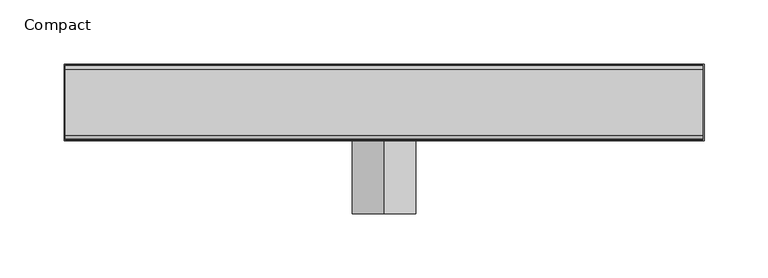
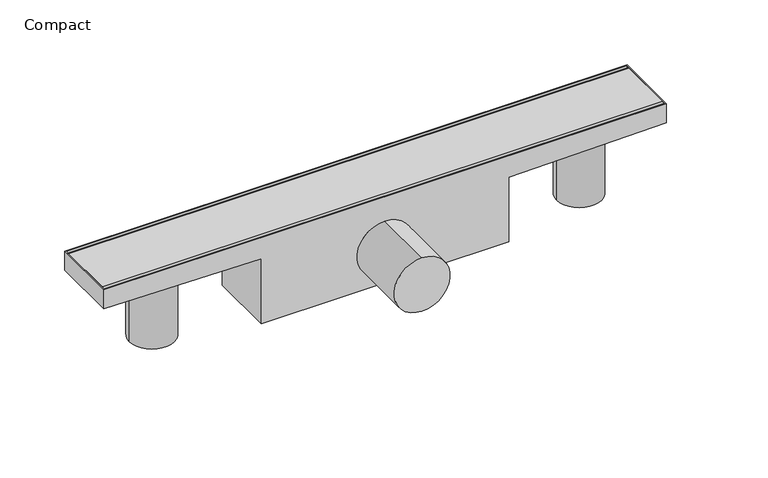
"""IFC4 building model written with IfcOpenShell, lengths in millimetres: sanitary terminal geometry, NLRS_PF_52_UN_Compact_Easydrain : Compact."""

from ifc_helpers import new_model, si_unit, point, frame, frame_2d, origin, place, context, project, spatial, polyline, circle_curve, trimmed, segment, composite_curve, outline, extrude, source, transform, mapped, element, save
from ifc_brep_helpers import plane_surface, cylinder_surface, advanced_brep


def compact_45fd4abb(model_context):
    return source(origin(), model_context, "Body", "SolidModel", [
        extrude(outline(composite_curve([segment(polyline([(-25.5, 0.0), (25.5, 0.0)]), True, "CONTINUOUS"), segment(trimmed(circle_curve(frame_2d((25.5, -3.0)), 3.0), [point((25.5, 0.0))], [point((28.5, -3.0))], False, "CARTESIAN"), True, "CONTINUOUS"), segment(polyline([(28.5, -3.0), (28.5, -12.0), (-28.5, -12.0), (-28.5, -3.0)]), True, "CONTINUOUS"), segment(trimmed(circle_curve(frame_2d((-25.5, -3.0)), 3.0), [point((-28.5, -3.0))], [point((-25.5, 0.0))], False, "CARTESIAN"), True, "CONTINUOUS")], self_intersect=False)), frame((-249.0, 0.0, 0.0), z_axis=(1.0, 0.0, 0.0), x_axis=(0.0, 1.0, 0.0)), (0.0, 0.0, 1.0), 498.0),
        extrude(outline(composite_curve([segment(trimmed(circle_curve(frame_2d((190.0, 0.0)), 20.0), [point((210.0, 0.0))], [point((170.0, 0.0))], False, "CARTESIAN"), True, "CONTINUOUS"), segment(trimmed(circle_curve(frame_2d((190.0, 0.0)), 20.0), [point((170.0, 0.0))], [point((210.0, 0.0))], False, "CARTESIAN"), True, "CONTINUOUS")], self_intersect=False)), frame((0.0, 0.0, -81.0), z_axis=(0.0, 0.0, 1.0), x_axis=(1.0, 0.0, 0.0)), (0.0, 0.0, 1.0), 63.0),
        extrude(outline(composite_curve([segment(trimmed(circle_curve(frame_2d((-190.0, 0.0)), 20.0), [point((-210.0, 0.0))], [point((-170.0, 0.0))], False, "CARTESIAN"), True, "CONTINUOUS"), segment(trimmed(circle_curve(frame_2d((-190.0, 0.0)), 20.0), [point((-170.0, 0.0))], [point((-210.0, 0.0))], False, "CARTESIAN"), True, "CONTINUOUS")], self_intersect=False)), frame((0.0, 0.0, -81.0), z_axis=(0.0, 0.0, 1.0), x_axis=(1.0, 0.0, 0.0)), (0.0, 0.0, 1.0), 63.0),
        advanced_brep(
        [(-250.0, -30.0, -18.0), (-110.0, -30.0, -20.0), (-110.0, -30.0, -81.0), (110.0, -30.0, -81.0), (110.0, -30.0, -20.0), (250.0, -30.0, -18.0), (250.0, -30.0, 0.0), (-250.0, -30.0, 0.0), (0.0, -30.0, -23.0), (0.0, -30.0, -73.0), (-250.0, 30.0, -18.0), (-250.0, 30.0, 0.0), (250.0, 30.0, 0.0), (250.0, 30.0, -18.0), (110.0, 30.0, -20.0), (110.0, 30.0, -81.0), (-110.0, 30.0, -81.0), (-110.0, 30.0, -20.0), (-249.0, 29.0, 0.0), (249.0, 29.0, 0.0), (249.0, -29.0, 0.0), (-249.0, -29.0, 0.0), (0.0, -87.0466767, -23.0), (0.0, -87.0466767, -73.0), (249.0, 29.0, -12.0), (-249.0, 29.0, -12.0), (-249.0, -29.0, -12.0), (249.0, -29.0, -12.0)],
        [
            (0, 1),
            (1, 2),
            (2, 3),
            (3, 4),
            (4, 5),
            (5, 6),
            (6, 7),
            (7, 0),
            (8, 9, circle_curve(frame((0.0, -30.0, -48.0), z_axis=(0.0, 1.0, 0.0), x_axis=(0.0, 0.0, -1.0)), 25.0)),
            (9, 8, circle_curve(frame((0.0, -30.0, -48.0), z_axis=(0.0, 1.0, 0.0), x_axis=(0.0, 0.0, -1.0)), 25.0)),
            (10, 11),
            (11, 12),
            (12, 13),
            (13, 14),
            (14, 15),
            (15, 16),
            (16, 17),
            (17, 10),
            (0, 10),
            (17, 1),
            (5, 13),
            (12, 6),
            (11, 7),
            (18, 19),
            (19, 20),
            (20, 21),
            (21, 18),
            (16, 2),
            (15, 3),
            (14, 4),
            (22, 23, circle_curve(frame((0.0, -87.0466767, -48.0), z_axis=(0.0, -1.0, 0.0), x_axis=(0.0, 0.0, -1.0)), 25.0)),
            (23, 22, circle_curve(frame((0.0, -87.0466767, -48.0), z_axis=(0.0, -1.0, 0.0), x_axis=(0.0, 0.0, -1.0)), 25.0)),
            (23, 9),
            (8, 22),
            (24, 25),
            (25, 26),
            (26, 27),
            (27, 24),
            (24, 19),
            (18, 25),
            (21, 26),
            (20, 27),
        ],
        [
            plane_surface(frame((-250.0, -30.0, -18.0), z_axis=(0.0, -1.0, 0.0), x_axis=(0.99989797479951, 0.0, -0.014284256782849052))),
            plane_surface(frame((-250.0, 30.0, -18.0), z_axis=(0.0, 1.0, 0.0), x_axis=(-0.99989797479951, 0.0, 0.014284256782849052))),
            plane_surface(frame((-250.0, -30.0, -18.0), z_axis=(-0.014284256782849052, 0.0, -0.99989797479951), x_axis=(0.0, 1.0, 0.0))),
            plane_surface(frame((250.0, -30.0, -18.0), z_axis=(1.0, 0.0, 0.0), x_axis=(0.0, 1.0, 0.0))),
            plane_surface(frame((250.0, -30.0, 0.0), z_axis=(0.0, 0.0, 1.0), x_axis=(0.0, 1.0, 0.0))),
            plane_surface(frame((-250.0, -30.0, 0.0), z_axis=(-1.0, 0.0, 0.0), x_axis=(0.0, 1.0, 0.0))),
            plane_surface(frame((-110.0, -30.0, -20.0), z_axis=(-1.0, 0.0, 0.0), x_axis=(0.0, 1.0, 0.0))),
            plane_surface(frame((-110.0, -30.0, -81.0), z_axis=(0.0, 0.0, -1.0), x_axis=(0.0, 1.0, 0.0))),
            plane_surface(frame((110.0, -30.0, -81.0), z_axis=(1.0, 0.0, 0.0), x_axis=(0.0, 1.0, 0.0))),
            plane_surface(frame((110.0, -30.0, -20.0), z_axis=(0.01428425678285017, 0.0, -0.99989797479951), x_axis=(0.0, 1.0, 0.0))),
            plane_surface(frame((0.0, -87.0466767, -48.0), z_axis=(0.0, -1.0, 0.0), x_axis=(1.0, 0.0, 0.0))),
            cylinder_surface(frame((0.0, 0.0, -48.0), z_axis=(0.0, 1.0, 0.0), x_axis=(0.0, 0.0, -1.0)), 25.0),
            plane_surface(frame((-249.0, 29.0, -12.0), z_axis=(0.0, 0.0, 1.0), x_axis=(1.0, 0.0, 0.0))),
            plane_surface(frame((249.0, 29.0, 0.0), z_axis=(0.0, -1.0, 0.0), x_axis=(0.0, 0.0, -1.0))),
            plane_surface(frame((-249.0, 29.0, 0.0), z_axis=(1.0, 0.0, 0.0), x_axis=(0.0, 0.0, -1.0))),
            plane_surface(frame((-249.0, -29.0, 0.0), z_axis=(0.0, 1.0, 0.0), x_axis=(0.0, 0.0, -1.0))),
            plane_surface(frame((249.0, -29.0, 0.0), z_axis=(-1.0, 0.0, 0.0), x_axis=(0.0, 0.0, -1.0))),
        ],
        [
            (0, [[1, 2, 3, 4, 5, 6, 7, 8], [9, 10]]),
            (1, [[11, 12, 13, 14, 15, 16, 17, 18]]),
            (2, [[-1, 19, -18, 20]]),
            (3, [[-6, 21, -13, 22]]),
            (4, [[-7, -22, -12, 23], [24, 25, 26, 27]]),
            (5, [[-8, -23, -11, -19]]),
            (6, [[-2, -20, -17, 28]]),
            (7, [[-3, -28, -16, 29]]),
            (8, [[-4, -29, -15, 30]]),
            (9, [[-5, -30, -14, -21]]),
            (10, [[31, 32]]),
            (11, [[-32, 33, -9, 34]]),
            (11, [[-31, -34, -10, -33]]),
            (12, [[35, 36, 37, 38]]),
            (13, [[-35, 39, -24, 40]]),
            (14, [[-36, -40, -27, 41]]),
            (15, [[-37, -41, -26, 42]]),
            (16, [[-38, -42, -25, -39]]),
        ],
    ),
    ])


if __name__ == "__main__":
    model = new_model("IFC4")
    model_context = context("Model", 3, world=origin())
    ifc_project = project(units=[si_unit("LENGTHUNIT", "METRE", prefix="MILLI")], contexts=[model_context])
    site = spatial("IfcSite", under=ifc_project)
    building = spatial("IfcBuilding", under=site)
    placement = place(None, origin())
    compact_shape = compact_45fd4abb(model_context)
    element("IfcSanitaryTerminal", 1, ObjectType="NLRS_PF_52_UN_Compact_Easydrain : Compact", at=placement, inside=building, context=model_context, shape_type="MappedRepresentation", body=[
        mapped(compact_shape, transform((0.0, 0.0, 0.0), x_axis=(1.0, 0.0, 0.0), y_axis=(0.0, 1.0, 0.0), z_axis=(0.0, 0.0, 1.0))),
    ])
    save(model, "model.ifc")
